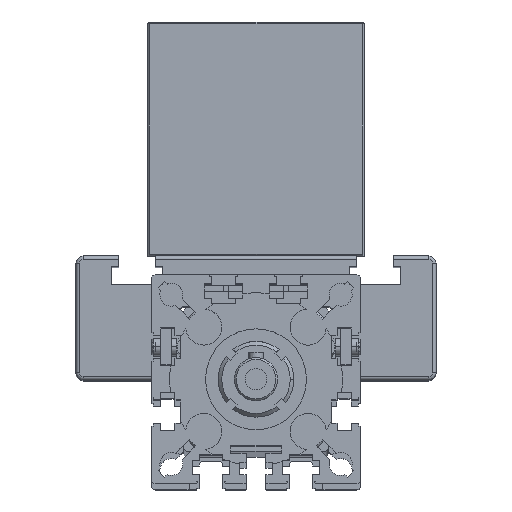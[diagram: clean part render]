
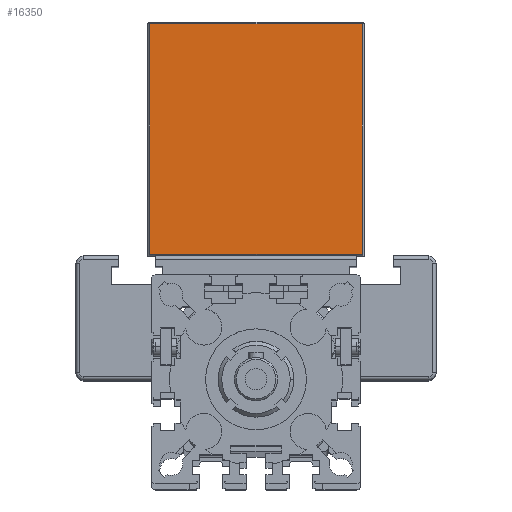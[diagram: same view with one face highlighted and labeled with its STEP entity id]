
A CAD part, top view. The second image highlights one B-rep face of the part: STEP entity #16350.
In plain terms, the highlighted planar face has unit normal (0, 0, 1) as drawn and (0, 0, -1) by its records, which use the part's own axes.
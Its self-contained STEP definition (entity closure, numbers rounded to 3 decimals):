
#51 = DIRECTION ( 'NONE',  ( 0., 0., 1. ) ) ;
#221 = FACE_OUTER_BOUND ( 'NONE', #31828, .T. ) ;
#703 = ORIENTED_EDGE ( 'NONE', *, *, #9396, .T. ) ;
#1245 = DIRECTION ( 'NONE',  ( -1., 0., 0. ) ) ;
#1356 = EDGE_CURVE ( 'NONE', #7389, #7848, #27051, .T. ) ;
#1815 = ORIENTED_EDGE ( 'NONE', *, *, #1356, .T. ) ;
#2160 = CARTESIAN_POINT ( 'NONE',  ( 59.5, 0.5, -55. ) ) ;
#3316 = DIRECTION ( 'NONE',  ( 0., -1., 0. ) ) ;
#5374 = EDGE_CURVE ( 'NONE', #27154, #29395, #24448, .T. ) ;
#6064 = VECTOR ( 'NONE', #16384, 1000. ) ;
#7310 = VECTOR ( 'NONE', #1245, 1000. ) ;
#7389 = VERTEX_POINT ( 'NONE', #19331 ) ;
#7848 = VERTEX_POINT ( 'NONE', #23808 ) ;
#9004 = ORIENTED_EDGE ( 'NONE', *, *, #13224, .T. ) ;
#9396 = EDGE_CURVE ( 'NONE', #7848, #27154, #14161, .T. ) ;
#10360 = CARTESIAN_POINT ( 'NONE',  ( 0.5, 0.5, -55. ) ) ;
#11470 = CARTESIAN_POINT ( 'NONE',  ( 59.5, 0., -55. ) ) ;
#11783 = CARTESIAN_POINT ( 'NONE',  ( 0., 0.5, -55. ) ) ;
#12150 = AXIS2_PLACEMENT_3D ( 'NONE', #15654, #51, #33276 ) ;
#13224 = EDGE_CURVE ( 'NONE', #29395, #7389, #29176, .T. ) ;
#14161 = LINE ( 'NONE', #11470, #31186 ) ;
#14337 = ORIENTED_EDGE ( 'NONE', *, *, #5374, .T. ) ;
#15456 = CARTESIAN_POINT ( 'NONE',  ( 0.5, 0., -55. ) ) ;
#15654 = CARTESIAN_POINT ( 'NONE',  ( 60., 0., -55. ) ) ;
#16350 = ADVANCED_FACE ( 'NONE', ( #221 ), #20883, .F. ) ;
#16384 = DIRECTION ( 'NONE',  ( 1., 0., 0. ) ) ;
#19063 = CARTESIAN_POINT ( 'NONE',  ( 60., 64.5, -55. ) ) ;
#19331 = CARTESIAN_POINT ( 'NONE',  ( 0.5, 64.5, -55. ) ) ;
#20883 = PLANE ( 'NONE',  #12150 ) ;
#23808 = CARTESIAN_POINT ( 'NONE',  ( 59.5, 64.5, -55. ) ) ;
#24448 = LINE ( 'NONE', #11783, #7310 ) ;
#27051 = LINE ( 'NONE', #19063, #6064 ) ;
#27154 = VERTEX_POINT ( 'NONE', #2160 ) ;
#29176 = LINE ( 'NONE', #15456, #29964 ) ;
#29395 = VERTEX_POINT ( 'NONE', #10360 ) ;
#29964 = VECTOR ( 'NONE', #31385, 1000. ) ;
#31186 = VECTOR ( 'NONE', #3316, 1000. ) ;
#31385 = DIRECTION ( 'NONE',  ( 0., 1., 0. ) ) ;
#31828 = EDGE_LOOP ( 'NONE', ( #703, #14337, #9004, #1815 ) ) ;
#33276 = DIRECTION ( 'NONE',  ( 0., -1., 0. ) ) ;
